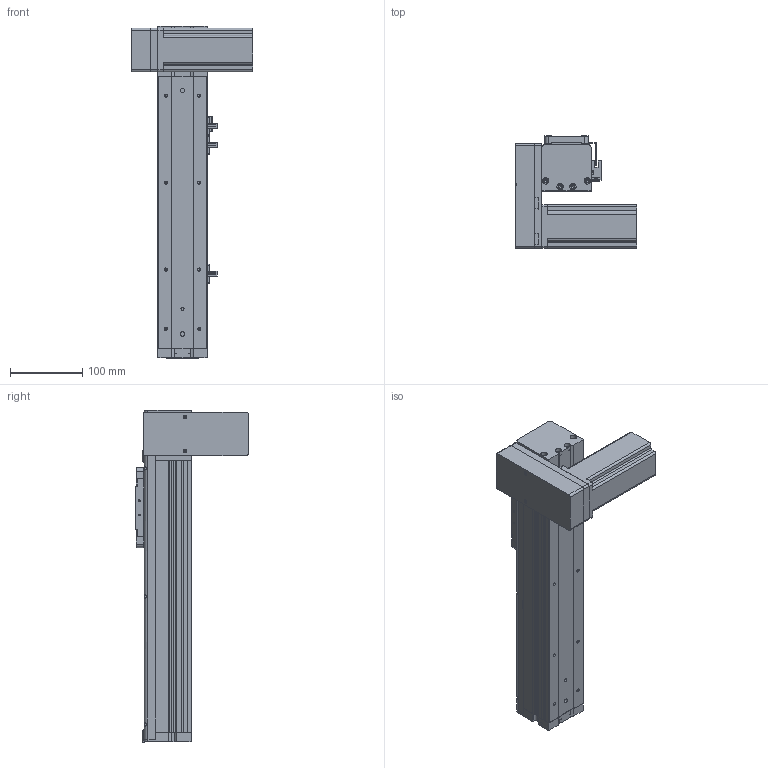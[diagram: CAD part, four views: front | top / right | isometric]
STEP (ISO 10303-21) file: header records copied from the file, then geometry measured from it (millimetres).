
FILE_DESCRIPTION (( 'STEP AP214' ), '1' );
FILE_NAME ('KSD68BS-S200-MRD-CR.STEP', '2019-08-28T01:48:49', ( '微软用户' ), ( '微软中国' ), 'SwSTEP 2.0', 'SolidWorks 2014', '' );
FILE_SCHEMA (( 'AUTOMOTIVE_DESIGN' ));
Length unit declared in the file: millimetre
Products named in the file (14): U倰嫖萇EEㄜSX672; 台达ECMA－C20604AS伺服电机（400W); KSD68BS 200行程底板全封闭; KSD68BS-S200-MRD-CR; 68遵裔啣揤啣1; 68宽单导轨全封闭丝杆传动安装板1防护罩; KSD68BS 200行程侧板全封闭; 68宽单导轨全封闭同步带端板; 68单导轨全封闭同步带电机座右; 68单导轨全封闭同步带安装板; 悵誘欶奻狟殏; 68宽马达安装板连板上折同步带; 感应片68宽全封闭; KSD68BS 200行程盖板全封闭
Assembly tree (17 placements, depth 2):
  KSD68BS-S200-MRD-CR
    KSD68BS 200行程底板全封闭
    台达ECMA－C20604AS伺服电机（400W)
    U倰嫖萇EEㄜSX672  x3
    感应片68宽全封闭
    68宽马达安装板连板上折同步带
    悵誘欶奻狟殏
    68单导轨全封闭同步带安装板
    68单导轨全封闭同步带电机座右
    68宽单导轨全封闭同步带端板
    KSD68BS 200行程侧板全封闭  x2
    68宽单导轨全封闭丝杆传动安装板1防护罩
    68遵裔啣揤啣1  x2
    KSD68BS 200行程盖板全封闭
Bounding box: 167.2 x 155.5 x 458.1 mm (x, y, z)
Volume: 1460357.2 mm3; surface area: 462869 mm2
Topology: 18 solids, 18 shells, 1346 faces, 3771 edges, 2427 vertices
Faces by surface type: plane 623, cylinder 595, cone 128
Entity records: 41082 total; most frequent: CARTESIAN_POINT 6853, DIRECTION 6243, ORIENTED_EDGE 5986, EDGE_CURVE 2993, AXIS2_PLACEMENT_3D 2207, VERTEX_POINT 1965, LINE 1829, VECTOR 1829
